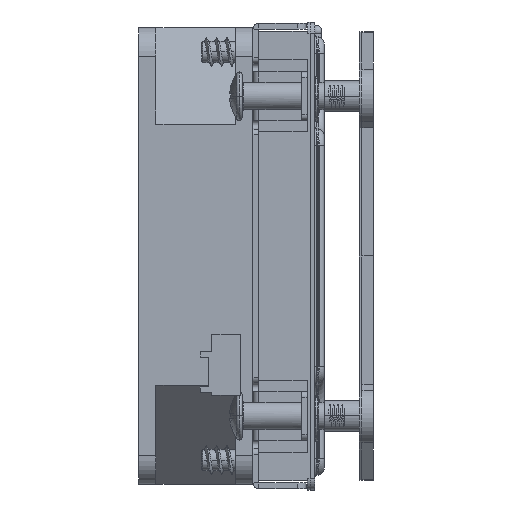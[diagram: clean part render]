
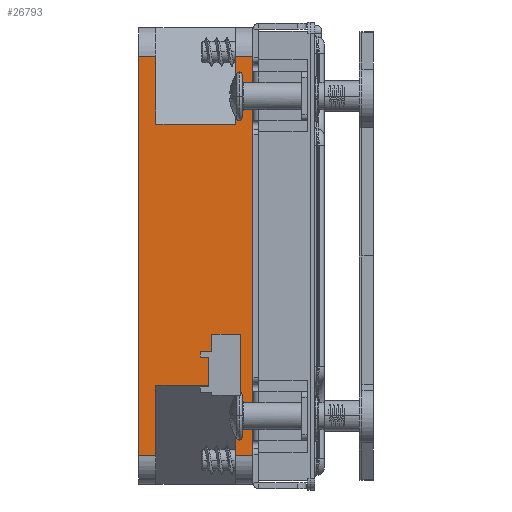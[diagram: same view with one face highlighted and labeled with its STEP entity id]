
A CAD part, left-side view. The second image highlights one B-rep face of the part: STEP entity #26793.
In plain terms, the highlighted planar face has unit normal (-1, 0, 0) as drawn and (0, 0, 1) by its records, which use the part's own axes.
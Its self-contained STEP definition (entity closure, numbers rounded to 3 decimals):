
#25376=DIRECTION('',(-1.,0.,0.));
#25377=VECTOR('',#25376,70.);
#25378=CARTESIAN_POINT('',(35.,3.,40.));
#25379=LINE('',#25378,#25377);
#25626=DIRECTION('',(-1.,0.,0.));
#25627=VECTOR('',#25626,11.906);
#25628=CARTESIAN_POINT('',(-23.094,0.,40.));
#25629=LINE('',#25628,#25627);
#25630=DIRECTION('',(-1.,0.,0.));
#25631=VECTOR('',#25630,12.353);
#25632=CARTESIAN_POINT('',(35.,0.,40.));
#25633=LINE('',#25632,#25631);
#25634=DIRECTION('',(0.,-1.,0.));
#25635=VECTOR('',#25634,14.);
#25636=CARTESIAN_POINT('',(22.647,0.,40.));
#25637=LINE('',#25636,#25635);
#25638=DIRECTION('',(1.,0.,0.));
#25639=VECTOR('',#25638,12.353);
#25640=CARTESIAN_POINT('',(22.647,-14.,40.));
#25641=LINE('',#25640,#25639);
#25642=DIRECTION('',(1.,0.,0.));
#25643=VECTOR('',#25642,11.906);
#25644=CARTESIAN_POINT('',(-35.,-14.,40.));
#25645=LINE('',#25644,#25643);
#25772=DIRECTION('',(1.,0.,0.));
#25773=VECTOR('',#25772,70.);
#25774=CARTESIAN_POINT('',(-35.,-17.,40.));
#25775=LINE('',#25774,#25773);
#25849=DIRECTION('',(0.,-1.,0.));
#25850=VECTOR('',#25849,3.);
#25851=CARTESIAN_POINT('',(-35.,-14.,40.));
#25852=LINE('',#25851,#25850);
#25876=DIRECTION('',(0.,-1.,0.));
#25877=VECTOR('',#25876,14.);
#25878=CARTESIAN_POINT('',(-23.094,0.,40.));
#25879=LINE('',#25878,#25877);
#25892=DIRECTION('',(0.,1.,0.));
#25893=VECTOR('',#25892,3.);
#25894=CARTESIAN_POINT('',(35.,-17.,40.));
#25895=LINE('',#25894,#25893);
#26054=DIRECTION('',(0.,-1.,0.));
#26055=VECTOR('',#26054,3.);
#26056=CARTESIAN_POINT('',(-35.,3.,40.));
#26057=LINE('',#26056,#26055);
#26066=DIRECTION('',(0.,1.,0.));
#26067=VECTOR('',#26066,3.);
#26068=CARTESIAN_POINT('',(35.,0.,40.));
#26069=LINE('',#26068,#26067);
#26194=CARTESIAN_POINT('',(35.,3.,40.));
#26195=VERTEX_POINT('',#26194);
#26196=CARTESIAN_POINT('',(-35.,3.,40.));
#26197=VERTEX_POINT('',#26196);
#26286=CARTESIAN_POINT('',(35.,0.,40.));
#26287=CARTESIAN_POINT('',(22.647,0.,40.));
#26288=VERTEX_POINT('',#26286);
#26289=VERTEX_POINT('',#26287);
#26294=CARTESIAN_POINT('',(-23.094,0.,40.));
#26295=CARTESIAN_POINT('',(-35.,0.,40.));
#26296=VERTEX_POINT('',#26294);
#26297=VERTEX_POINT('',#26295);
#26298=CARTESIAN_POINT('',(22.647,-14.,40.));
#26299=VERTEX_POINT('',#26298);
#26300=CARTESIAN_POINT('',(35.,-14.,40.));
#26301=VERTEX_POINT('',#26300);
#26302=CARTESIAN_POINT('',(35.,-17.,40.));
#26303=VERTEX_POINT('',#26302);
#26304=CARTESIAN_POINT('',(-35.,-17.,40.));
#26305=VERTEX_POINT('',#26304);
#26306=CARTESIAN_POINT('',(-35.,-14.,40.));
#26307=VERTEX_POINT('',#26306);
#26308=CARTESIAN_POINT('',(-23.094,-14.,40.));
#26309=VERTEX_POINT('',#26308);
#26764=CARTESIAN_POINT('',(-35.,3.,40.));
#26765=DIRECTION('',(0.,0.,-1.));
#26766=DIRECTION('',(-1.,0.,0.));
#26767=AXIS2_PLACEMENT_3D('',#26764,#26765,#26766);
#26768=PLANE('',#26767);
#26770=ORIENTED_EDGE('',*,*,#26769,.T.);
#26772=ORIENTED_EDGE('',*,*,#26771,.F.);
#26773=ORIENTED_EDGE('',*,*,#26585,.F.);
#26775=ORIENTED_EDGE('',*,*,#26774,.F.);
#26776=ORIENTED_EDGE('',*,*,#26748,.T.);
#26778=ORIENTED_EDGE('',*,*,#26777,.T.);
#26780=ORIENTED_EDGE('',*,*,#26779,.T.);
#26782=ORIENTED_EDGE('',*,*,#26781,.F.);
#26784=ORIENTED_EDGE('',*,*,#26783,.F.);
#26786=ORIENTED_EDGE('',*,*,#26785,.F.);
#26788=ORIENTED_EDGE('',*,*,#26787,.T.);
#26790=ORIENTED_EDGE('',*,*,#26789,.F.);
#26791=EDGE_LOOP('',(#26770,#26772,#26773,#26775,#26776,#26778,#26780,#26782,
#26784,#26786,#26788,#26790));
#26792=FACE_OUTER_BOUND('',#26791,.F.);
#26793=ADVANCED_FACE('',(#26792),#26768,.F.);
#26585=EDGE_CURVE('',#26195,#26197,#25379,.T.);
#26748=EDGE_CURVE('',#26288,#26289,#25633,.T.);
#26769=EDGE_CURVE('',#26296,#26297,#25629,.T.);
#26771=EDGE_CURVE('',#26197,#26297,#26057,.T.);
#26774=EDGE_CURVE('',#26288,#26195,#26069,.T.);
#26777=EDGE_CURVE('',#26289,#26299,#25637,.T.);
#26779=EDGE_CURVE('',#26299,#26301,#25641,.T.);
#26781=EDGE_CURVE('',#26303,#26301,#25895,.T.);
#26783=EDGE_CURVE('',#26305,#26303,#25775,.T.);
#26785=EDGE_CURVE('',#26307,#26305,#25852,.T.);
#26787=EDGE_CURVE('',#26307,#26309,#25645,.T.);
#26789=EDGE_CURVE('',#26296,#26309,#25879,.T.);
